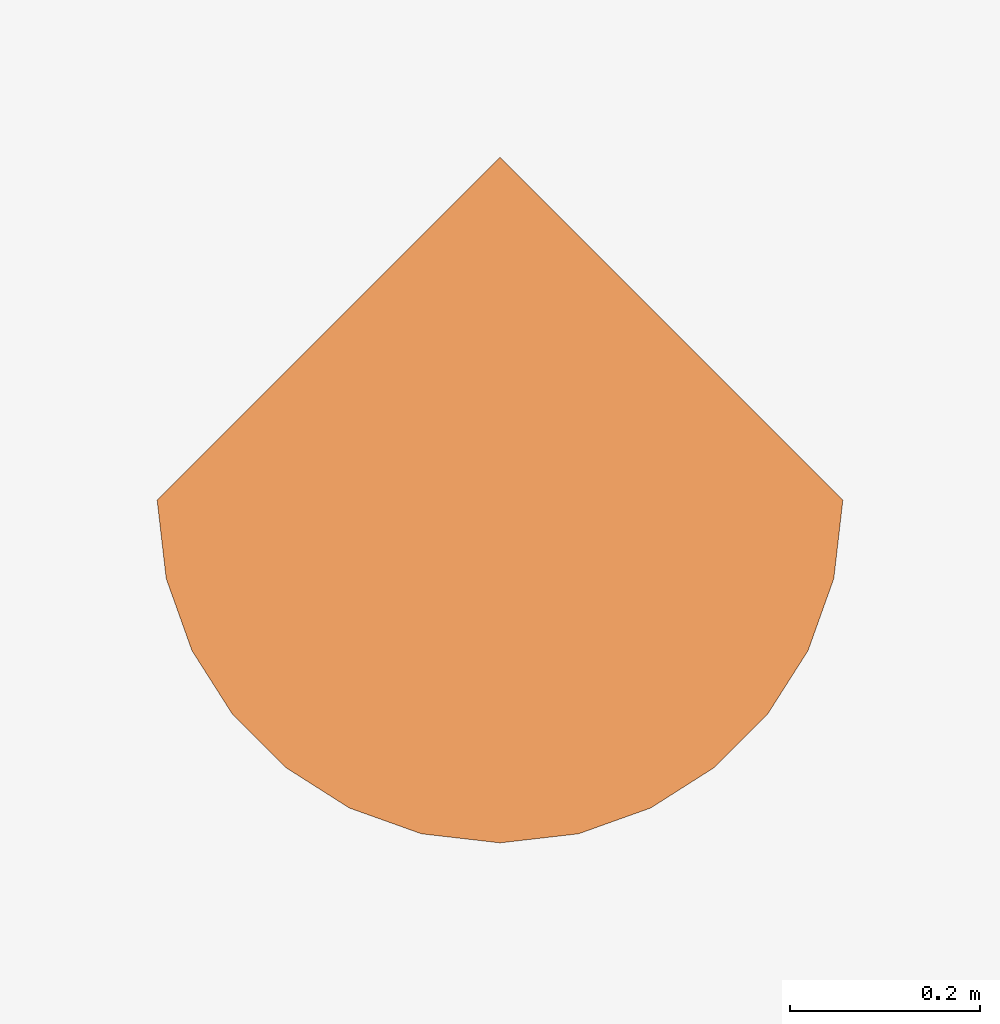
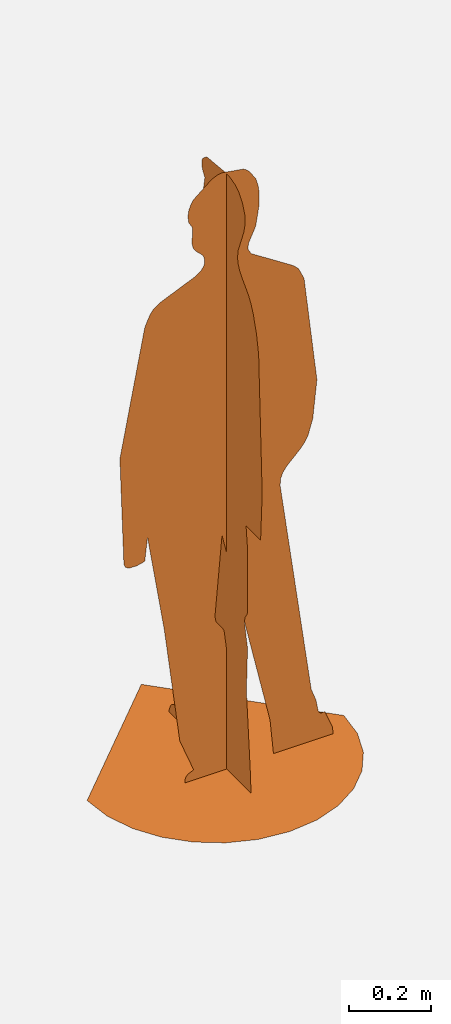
# One storey, part 5 of 6: 1 proxy.
"""IFC2X3 building model written with IfcOpenShell, lengths in millimetres."""

from ifc_helpers import new_model, entity, si_unit, converted_unit, derived_unit, direction, frame, origin, place, context, subcontext, project, spatial, face_set, surface_model, source, transform, mapped, type_object, type_shapes, element, save


model = new_model("IFC2X3")

# Units and contexts
model_context = context("Model", 3, precision=0.01, world=origin(), true_north=direction((6.12303176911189e-17, 1.0)))
body_context = subcontext(model_context, "Body", "Model", "MODEL_VIEW")
ifc_project = project(units=[si_unit("LENGTHUNIT", "METRE", prefix="MILLI"), si_unit("AREAUNIT", "SQUARE_METRE"), si_unit("VOLUMEUNIT", "CUBIC_METRE"), converted_unit("PLANEANGLEUNIT", "DEGREE", entity("IfcRatioMeasure", 0.0174532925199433), si_unit("PLANEANGLEUNIT", "RADIAN"), dimensions=[0, 0, 0, 0, 0, 0, 0]), si_unit("MASSUNIT", "GRAM", prefix="KILO"), derived_unit("MASSDENSITYUNIT", [(si_unit("MASSUNIT", "GRAM", prefix="KILO"), 1), (si_unit("LENGTHUNIT", "METRE"), -3)]), si_unit("TIMEUNIT", "SECOND"), si_unit("FREQUENCYUNIT", "HERTZ"), si_unit("THERMODYNAMICTEMPERATUREUNIT", "DEGREE_CELSIUS"), derived_unit("THERMALTRANSMITTANCEUNIT", [(si_unit("MASSUNIT", "GRAM", prefix="KILO"), 1), (si_unit("THERMODYNAMICTEMPERATUREUNIT", "KELVIN"), -1), (si_unit("TIMEUNIT", "SECOND"), -3)]), derived_unit("VOLUMETRICFLOWRATEUNIT", [(si_unit("LENGTHUNIT", "METRE"), 3), (si_unit("TIMEUNIT", "SECOND"), -1)]), si_unit("ELECTRICCURRENTUNIT", "AMPERE"), si_unit("ELECTRICVOLTAGEUNIT", "VOLT"), si_unit("POWERUNIT", "WATT"), si_unit("FORCEUNIT", "NEWTON", prefix="KILO"), si_unit("ILLUMINANCEUNIT", "LUX"), si_unit("LUMINOUSFLUXUNIT", "LUMEN"), si_unit("LUMINOUSINTENSITYUNIT", "CANDELA"), derived_unit("USERDEFINED", [(si_unit("MASSUNIT", "GRAM", prefix="KILO"), -1), (si_unit("LENGTHUNIT", "METRE"), -2), (si_unit("TIMEUNIT", "SECOND"), 3), (si_unit("LUMINOUSFLUXUNIT", "LUMEN"), 1)]), derived_unit("LINEARVELOCITYUNIT", [(si_unit("LENGTHUNIT", "METRE"), 1), (si_unit("TIMEUNIT", "SECOND"), -1)]), si_unit("PRESSUREUNIT", "PASCAL"), derived_unit("USERDEFINED", [(si_unit("LENGTHUNIT", "METRE"), -2), (si_unit("MASSUNIT", "GRAM", prefix="KILO"), 1), (si_unit("TIMEUNIT", "SECOND"), -2)])], contexts=[model_context])

# Site, building, storey
site_placement = place(None, origin())
site = spatial("IfcSite", under=ifc_project, at=site_placement, Name="表面", CompositionType="ELEMENT")
building_placement = place(site_placement, origin())
building = spatial("IfcBuilding", under=site, at=building_placement, CompositionType="ELEMENT")
storey_placement = place(building_placement, frame((0.0, 0.0, -450.0)))
storey = spatial("IfcBuildingStorey", under=building, at=storey_placement, Name="室外地坪", CompositionType="ELEMENT", Elevation=-449.999999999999)

# Proxy
building_element_proxy_type = type_object("IfcBuildingElementProxyType", Name="Alex", PredefinedType="NOTDEFINED")
shared_shape = source(origin(), body_context, "Body", "SurfaceModel", [
    surface_model("IfcFaceBasedSurfaceModel", [(297.171559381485, -54.2191877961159, 23.3147991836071), (300.036973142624, -54.2191877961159, 0.0), (131.828027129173, -54.2191877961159, 0.0), (26.3020782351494, -54.2191877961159, 0.0), (-117.14976246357, -54.2191877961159, 0.0), (-117.165113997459, -54.2191877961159, 5.9668840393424), (-116.225654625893, -54.2191877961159, 11.2908260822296), (-114.198943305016, -54.2191877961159, 16.0246055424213), (-110.94873290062, -54.2191877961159, 20.2200412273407), (-106.342582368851, -54.2191877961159, 23.9299119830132), (-92.5231678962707, -54.2191877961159, 30.1059907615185), (122.328797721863, -54.2191877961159, 103.061659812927), (25.5305478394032, -54.2191877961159, 136.353568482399), (-131.470091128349, -54.2191877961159, 129.020195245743), (10.7735940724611, -54.2191877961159, 177.672657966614), (9.46371990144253, -54.2191877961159, 194.821938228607), (-175.160383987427, -54.2191877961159, 475.757769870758), (20.19221316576, -54.2191877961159, 275.828766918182), (17.9659057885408, -54.2191877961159, 301.695174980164), (15.1043355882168, -54.2191877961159, 310.801922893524), (11.5067399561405, -54.2191877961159, 320.053574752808), (7.63181579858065, -54.2191877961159, 329.409798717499), (3.94401627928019, -54.2191877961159, 338.830335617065), (0.902037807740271, -54.2191877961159, 348.275834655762), (-6.93417544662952, -54.2191877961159, 413.780084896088), (-9.31114132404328, -54.2191877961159, 418.997535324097), (-28.5399003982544, -54.2191877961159, 446.895432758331), (-30.5454942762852, -54.2191877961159, 452.147401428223), (-32.6518496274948, -54.2191877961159, 465.911168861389), (-222.382065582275, -54.2191877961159, 767.940262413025), (-12.8367652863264, -54.2191877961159, 700.06003074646), (271.669791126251, -54.2191877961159, 73.3510278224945), (276.394938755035, -54.2191877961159, 74.3758971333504), (-230.165493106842, -54.2191877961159, 699.513043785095), (-235.713991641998, -54.2191877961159, 696.803107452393), (-252.813365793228, -54.2191877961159, 693.070195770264), (-271.567108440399, -54.2191877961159, 693.422354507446), (-279.184539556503, -54.2191877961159, 695.817557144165), (-284.35973238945, -54.2191877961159, 700.06003074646), (-288.794127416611, -54.2191877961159, 709.015152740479), (-300.037917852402, -54.2191877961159, 1027.7789806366), (-230.605964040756, -54.2191877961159, 1391.15534706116), (-226.423007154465, -54.2191877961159, 1402.40291633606), (-221.691137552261, -54.2191877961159, 1413.47113609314), (-216.458371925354, -54.2191877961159, 1423.88300056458), (-210.769765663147, -54.2191877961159, 1433.16630020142), (-204.673335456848, -54.2191877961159, 1440.84606399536), (-189.6342461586, -54.2191877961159, 1451.6244758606), (-89.8842301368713, -54.2191877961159, 1494.98185844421), (-71.7475101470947, -54.2191877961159, 1507.21207122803), (-63.0092580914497, -54.2191877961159, 1520.53247909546), (267.325615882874, -54.2191877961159, 73.249308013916), (263.4036714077, -54.2191877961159, 74.7338331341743), (259.947141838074, -54.2191877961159, 78.4667311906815), (256.99632267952, -54.2191877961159, 85.1120650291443), (251.636875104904, -54.2191877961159, 116.832131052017), (238.026659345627, -54.2191877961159, 154.062289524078), (150.444550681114, -54.2191877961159, 791.592888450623), (152.438624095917, -54.2191877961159, 812.210161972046), (158.305707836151, -54.2191877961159, 826.766613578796), (168.183030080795, -54.2191877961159, 840.356627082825), (180.684883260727, -54.2191877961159, 853.514908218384), (194.421780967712, -54.2191877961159, 866.778706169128), (208.00703458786, -54.2191877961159, 880.683526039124), (220.053083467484, -54.2191877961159, 895.763855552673), (229.173257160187, -54.2191877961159, 912.556144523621), (242.364130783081, -54.2191877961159, 957.355735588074), (254.108853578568, -54.2191877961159, 1069.05298748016), (217.886264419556, -54.2191877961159, 1383.19057159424), (202.611124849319, -54.2191877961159, 1417.23471450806), (187.949174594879, -54.2191877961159, 1431.61944694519), (69.4089310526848, -54.2191877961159, 1508.79351539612), (60.9470474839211, -54.2191877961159, 1523.48331642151), (-61.6725164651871, -54.2191877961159, 1534.69164390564), (60.5372932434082, -54.2191877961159, 1533.94881134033), (62.4047028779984, -54.2191877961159, 1543.96622314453), (-63.8671544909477, -54.2191877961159, 1545.32602386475), (-68.5855801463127, -54.2191877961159, 1553.4050365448), (81.6065922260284, -54.2191877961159, 1585.46194610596), (90.9474828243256, -54.2191877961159, 1642.29321556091), (-87.7951498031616, -54.2191877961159, 1572.00622673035), (-92.5231678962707, -54.2191877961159, 1579.5583820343), (-95.9144489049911, -54.2191877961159, 1589.69090309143), (-97.2060851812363, -54.2191877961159, 1598.30738296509), (-95.4739870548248, -54.2191877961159, 1641.53701171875), (91.0789519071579, -54.2191877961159, 1685.13609466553), (-96.3318834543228, -54.2191877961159, 1644.51473693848), (88.7451644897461, -54.2191877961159, 1704.59900550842), (81.7812454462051, -54.2191877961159, 1728.06065483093), (63.2558818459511, -54.2191877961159, 1755.99020004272), (52.0926824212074, -54.2191877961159, 1765.49339904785), (45.7764981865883, -54.2191877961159, 1768.29642562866), (-13.1083364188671, -54.2191877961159, 1777.99903106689), (-23.8377891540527, -54.2191877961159, 1776.43299293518), (-41.9073348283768, -54.2191877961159, 1768.68215789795), (-92.9406024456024, -54.2191877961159, 1726.0511844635), (-97.9843352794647, -54.2191877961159, 1647.88778686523), (-100.590653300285, -54.2191877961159, 1713.72214050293), (-105.973128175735, -54.2191877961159, 1699.56878929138), (-108.423024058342, -54.2191877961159, 1683.42994880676), (-107.279162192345, -54.2191877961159, 1665.14734382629), (-100.120442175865, -54.2191877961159, 1651.49788627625), (-102.430230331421, -54.2191877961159, 1655.18661460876), (-104.599919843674, -54.2191877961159, 1658.79671401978), (-106.320508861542, -54.2191877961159, 1662.16976394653), (0.0, 224.300335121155, 9.81014111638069), (0.0, 227.680107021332, 0.0), (0.0, -172.949436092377, 0.0), (0.0, 221.081781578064, 17.6607486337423), (0.0, 217.684750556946, 23.8550619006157), (0.0, 213.764731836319, 28.6934384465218), (0.0, 208.982011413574, 32.4771986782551), (0.0, 202.993060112, 35.5086224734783), (0.0, 195.457201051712, 38.0899851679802), (0.0, 185.196035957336, 40.8613548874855), (0.0, 171.015815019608, 44.676778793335), (0.0, 154.809845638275, 49.6658183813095), (0.0, 138.475277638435, 55.9560912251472), (0.0, 123.907362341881, 63.6781126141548), (0.0, 113.001341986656, 72.9595046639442), (0.0, -171.256679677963, 45.1949748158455), (0.0, 107.654375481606, 83.9307781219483), (0.0, 104.74098136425, 115.280427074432), (0.0, -210.042375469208, 781.404629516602), (0.0, -219.944641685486, 780.446911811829), (0.0, -227.680107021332, 923.839322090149), (0.0, -150.874457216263, 290.639454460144), (0.0, 148.972502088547, 491.215256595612), (0.0, -156.013187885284, 413.706215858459), (0.0, -155.015192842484, 426.285789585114), (0.0, -142.9451628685, 479.870672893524), (0.0, -142.184190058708, 491.544378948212), (0.0, 150.526122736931, 510.814423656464), (0.0, -143.210017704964, 503.020422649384), (0.0, 150.262221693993, 530.943282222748), (0.0, 142.992180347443, 588.389666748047), (0.0, -144.047757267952, 505.244814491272), (0.0, 137.167326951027, 618.123316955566), (0.0, -145.711727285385, 508.173560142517), (0.0, -147.87566678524, 511.529314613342), (0.0, -150.214241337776, 515.035750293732), (0.0, 134.779800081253, 638.284804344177), (0.0, -152.40025434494, 518.414541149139), (0.0, -154.109325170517, 521.388414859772), (0.0, -155.015192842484, 523.679953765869), (0.0, -156.638858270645, 713.29599609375), (0.0, -149.112609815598, 780.446911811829), (0.0, 140.119099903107, 768.640801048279), (0.0, 138.189312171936, 779.986329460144), (0.0, 123.662664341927, 824.559480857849), (0.0, 121.934399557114, 836.203464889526), (0.0, 122.410369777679, 848.327216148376), (0.0, 123.45730805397, 852.899756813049), (0.0, 61.795346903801, 1563.4858165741), (0.0, 54.5483373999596, 1508.47783699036), (0.0, -4.49675438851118, 1482.86573753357), (0.0, 125.117444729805, 858.12872543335), (0.0, 127.066417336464, 863.969865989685), (0.0, 128.979890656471, 870.382047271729), (0.0, 130.533502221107, 877.319051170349), (0.0, 131.40387969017, 884.738801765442), (0.0, 131.264734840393, 892.597115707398), (0.0, 4.84413507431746, 1466.16268730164), (0.0, -210.508753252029, 1326.63268661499), (0.0, -200.024963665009, 1381.46611289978), (0.0, -183.920714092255, 1432.73057098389), (0.0, -173.361111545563, 1455.01961746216), (0.0, -160.917794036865, 1474.01133613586), (0.0, -124.733592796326, 1511.6867980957), (0.0, -116.986627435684, 1522.76359291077), (0.0, -111.113784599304, 1535.60030937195), (0.0, -107.793520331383, 1550.74589653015), (0.0, -109.484360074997, 1573.61746559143), (0.0, 72.2378735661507, 1580.25993804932), (0.0, 51.5783288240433, 1695.36177864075), (0.0, -138.180673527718, 1647.64594116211), (0.0, -144.365388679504, 1674.28297805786), (0.0, -143.232091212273, 1701.97736320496), (0.0, -131.404833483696, 1730.77836685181), (0.0, -113.808378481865, 1751.5875617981), (0.0, -93.3148528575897, 1763.99538002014), (0.0, -70.4587488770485, 1769.80781593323), (0.0, -45.7764981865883, 1770.83173599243), (0.0, 33.8705593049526, 1763.24310035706), (0.0, 55.1979979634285, 1700.16570053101), (0.0, 62.1926291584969, 1712.28647232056), (0.0, 65.1444021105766, 1720.01913986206), (0.0, 66.766150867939, 1728.29392547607), (0.0, 66.3352859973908, 1736.6809135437), (0.0, 63.7241717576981, 1742.80801048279), (0.0, 58.8829156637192, 1748.8843837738), (0.0, 52.7442596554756, 1754.47212409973), (0.0, 46.2419130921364, 1759.13869972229), (0.0, 40.3066967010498, 1762.4456199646), (0.0, 35.872315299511, 1763.95889968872), (361.244083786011, 0.0, 0.0), (0.0, 361.244083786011, 0.0), (-361.244083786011, 0.0, 0.0), (351.693976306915, -82.7734813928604, 0.0), (-351.693976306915, -82.7734813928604, 0.0), (324.495636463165, -158.787437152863, 0.0), (-324.495636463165, -158.787437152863, 0.0), (-281.826347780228, -225.863539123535, 0.0), (281.826347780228, -225.863539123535, 0.0), (225.864502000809, -281.826347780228, 0.0), (-225.864502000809, -281.826347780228, 0.0), (-158.787437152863, -324.494655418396, 0.0), (-82.7734813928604, -351.693976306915, 0.0), (0.0, -361.244083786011, 0.0), (82.7734813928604, -351.693976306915, 0.0), (158.787437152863, -324.495636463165, 0.0)], [face_set([[[0, 1, 2]], [[3, 4, 5]], [[3, 5, 6]], [[3, 6, 7]], [[3, 7, 8]], [[3, 8, 9]], [[3, 9, 10]], [[0, 2, 11]], [[12, 3, 10]], [[12, 10, 13]], [[14, 12, 13]], [[15, 14, 13]], [[15, 13, 16]], [[17, 15, 16]], [[18, 17, 16]], [[19, 18, 16]], [[20, 19, 16]], [[21, 20, 16]], [[22, 21, 16]], [[23, 22, 16]], [[24, 23, 16]], [[25, 24, 16]], [[26, 25, 16]], [[27, 26, 16]], [[28, 27, 16]], [[28, 16, 29]], [[30, 28, 29]], [[31, 32, 0]], [[29, 33, 34]], [[29, 34, 35]], [[29, 35, 36]], [[29, 36, 37]], [[29, 37, 38]], [[29, 38, 39]], [[29, 39, 40]], [[30, 29, 40]], [[30, 40, 41]], [[30, 41, 42]], [[30, 42, 43]], [[30, 43, 44]], [[30, 44, 45]], [[30, 45, 46]], [[30, 46, 47]], [[30, 47, 48]], [[30, 48, 49]], [[30, 49, 50]], [[51, 31, 0]], [[51, 0, 11]], [[52, 51, 11]], [[53, 52, 11]], [[54, 53, 11]], [[55, 54, 11]], [[56, 55, 11]], [[57, 56, 11]], [[57, 11, 30]], [[57, 30, 50]], [[58, 57, 50]], [[59, 58, 50]], [[60, 59, 50]], [[61, 60, 50]], [[62, 61, 50]], [[63, 62, 50]], [[64, 63, 50]], [[65, 64, 50]], [[66, 65, 50]], [[67, 66, 50]], [[68, 67, 50]], [[69, 68, 50]], [[70, 69, 50]], [[71, 70, 50]], [[72, 71, 50]], [[72, 50, 73]], [[74, 72, 73]], [[75, 74, 73]], [[75, 73, 76]], [[75, 76, 77]], [[78, 75, 77]], [[79, 78, 77]], [[79, 77, 80]], [[79, 80, 81]], [[79, 81, 82]], [[79, 82, 83]], [[79, 83, 84]], [[85, 79, 84]], [[85, 84, 86]], [[87, 85, 86]], [[88, 87, 86]], [[89, 88, 86]], [[90, 89, 86]], [[91, 90, 86]], [[92, 91, 86]], [[93, 92, 86]], [[94, 93, 86]], [[95, 94, 86]], [[95, 86, 96]], [[97, 95, 96]], [[98, 97, 96]], [[99, 98, 96]], [[100, 99, 96]], [[100, 96, 101]], [[100, 101, 102]], [[100, 102, 103]], [[100, 103, 104]], [[105, 106, 107]], [[108, 105, 107]], [[109, 108, 107]], [[110, 109, 107]], [[111, 110, 107]], [[112, 111, 107]], [[113, 112, 107]], [[114, 113, 107]], [[115, 114, 107]], [[116, 115, 107]], [[117, 116, 107]], [[118, 117, 107]], [[119, 118, 107]], [[119, 107, 120]], [[121, 119, 120]], [[122, 121, 120]], [[123, 124, 125]], [[122, 120, 126]], [[127, 122, 126]], [[127, 126, 128]], [[127, 128, 129]], [[127, 129, 130]], [[127, 130, 131]], [[132, 127, 131]], [[132, 131, 133]], [[134, 132, 133]], [[135, 134, 133]], [[135, 133, 136]], [[137, 135, 136]], [[137, 136, 138]], [[137, 138, 139]], [[137, 139, 140]], [[141, 137, 140]], [[141, 140, 142]], [[141, 142, 143]], [[141, 143, 144]], [[141, 144, 145]], [[141, 145, 146]], [[147, 141, 146]], [[148, 147, 146]], [[149, 148, 146]], [[150, 149, 146]], [[151, 150, 146]], [[152, 151, 146]], [[153, 154, 155]], [[156, 152, 146]], [[157, 156, 146]], [[158, 157, 146]], [[159, 158, 146]], [[160, 159, 146]], [[161, 160, 146]], [[146, 123, 125]], [[162, 161, 146]], [[162, 146, 125]], [[162, 125, 163]], [[162, 163, 164]], [[162, 164, 165]], [[162, 165, 166]], [[162, 166, 167]], [[155, 162, 167]], [[155, 167, 168]], [[155, 168, 169]], [[155, 169, 170]], [[153, 155, 170]], [[153, 170, 171]], [[153, 171, 172]], [[173, 153, 172]], [[174, 173, 172]], [[174, 172, 175]], [[174, 175, 176]], [[174, 176, 177]], [[174, 177, 178]], [[174, 178, 179]], [[174, 179, 180]], [[174, 180, 181]], [[174, 181, 182]], [[174, 182, 183]], [[184, 174, 183]], [[185, 184, 183]], [[186, 185, 183]], [[187, 186, 183]], [[188, 187, 183]], [[189, 188, 183]], [[190, 189, 183]], [[191, 190, 183]], [[192, 191, 183]], [[193, 192, 183]], [[194, 193, 183]], [[195, 196, 197]], [[198, 195, 197]], [[198, 197, 199]], [[200, 198, 199]], [[200, 199, 201]], [[200, 201, 202]], [[203, 200, 202]], [[204, 203, 202]], [[204, 202, 205]], [[204, 205, 206]], [[204, 206, 207]], [[204, 207, 208]], [[204, 208, 209]], [[204, 209, 210]]])]),
])
type_shapes(building_element_proxy_type, [shared_shape])
proxy_placement = place(storey_placement, frame((-64717.8002058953, -7501.99953715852, 100.0)))
element("IfcBuildingElementProxy", 1, at=proxy_placement, inside=storey, type_object=building_element_proxy_type, Name="RPC 男性:Alex", ObjectType="Alex", context=body_context, shape_type="MappedRepresentation", body=[
    mapped(shared_shape, transform((0.0, 0.0, 0.0), scale=1.0)),
])

save(model, "model.ifc")
